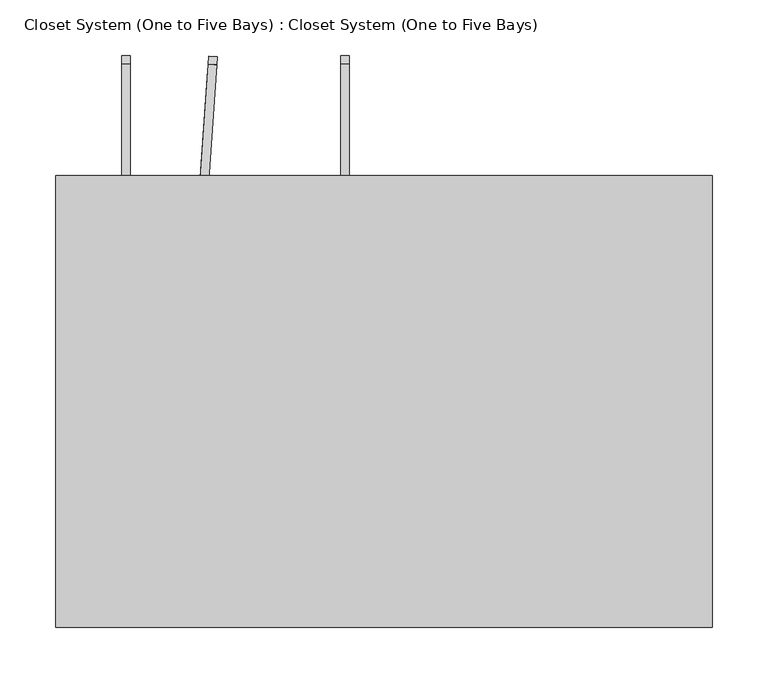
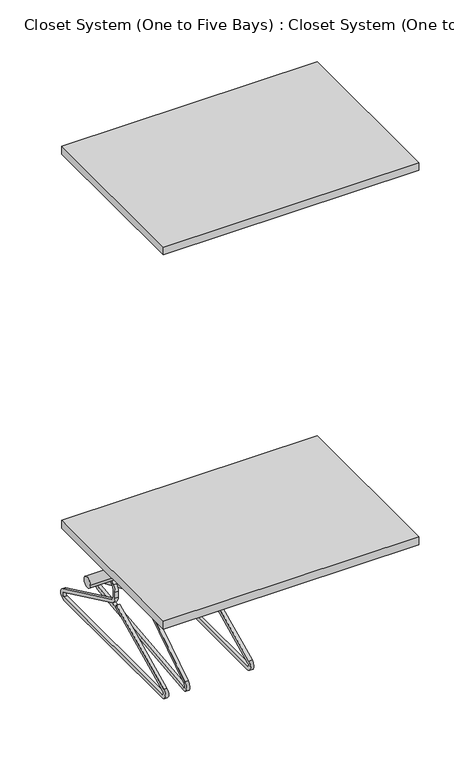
"""IFC4 building model written with IfcOpenShell, lengths in millimetres: furniture geometry, Closet System (One to Five Bays) : Closet System (One to Five Bays)."""

from ifc_helpers import new_model, si_unit, point, frame, frame_2d, origin, place, context, project, spatial, polyline, circle_curve, trimmed, segment, composite_curve, outline, extrude, source, transform, mapped, element, save


def closet_system_one_to_five_bays_closet_system_one_to_five_d383a4f7(model_context):
    return source(origin(), model_context, "Body", "SweptSolid", [
        extrude(outline(composite_curve([segment(polyline([(-1e-07, 7.62), (209.5499999, 7.62)]), True, "CONTINUOUS"), segment(trimmed(circle_curve(frame_2d((209.55, -5.08)), 12.7), [point((209.5499999, 7.62))], [point((215.0168758, -16.5431265))], False, "CARTESIAN"), True, "CONTINUOUS"), segment(polyline([(215.0168758, -16.5431265), (-140.3400453, -186.0162767)]), True, "CONTINUOUS"), segment(trimmed(circle_curve(frame_2d((-145.8069211, -174.5531502)), 12.7), [point((-140.3400453, -186.0162767))], [point((-155.675817, -166.5597221))], False, "CARTESIAN"), True, "CONTINUOUS"), segment(polyline([(-155.675817, -166.5597221), (-19.6406825, 1.3928202)]), True, "CONTINUOUS"), segment(trimmed(circle_curve(frame_2d((-29.5095784, 9.3862484)), 12.7), [point((-19.6406825, 1.3928202))], [point((-18.0464518, 14.8531243))], True, "CARTESIAN"), True, "CONTINUOUS"), segment(polyline([(-18.0464518, 14.8531243), (-24.2041701, 27.7648321)]), True, "CONTINUOUS"), segment(trimmed(circle_curve(frame_2d((-35.6672967, 22.2979563)), 12.7), [point((-24.2041701, 27.7648321))], [point((-31.4273071, 34.2692757))], True, "CARTESIAN"), True, "CONTINUOUS"), segment(polyline([(-31.4273071, 34.2692757), (-50.4112631, 40.9929936)]), True, "CONTINUOUS"), segment(trimmed(circle_curve(frame_2d((-41.931284, 64.9356325)), 25.4), [point((-50.4112631, 40.9929936))], [point((-19.0050311, 75.8693841))], False, "CARTESIAN"), True, "CONTINUOUS"), segment(polyline([(-19.0050311, 75.8693841), (-25.882907, 72.5892586)]), True, "CONTINUOUS"), segment(trimmed(circle_curve(frame_2d((-41.931284, 64.9356325)), 17.78), [point((-25.882907, 72.5892586))], [point((-47.8672694, 48.1757852))], True, "CARTESIAN"), True, "CONTINUOUS"), segment(polyline([(-47.8672694, 48.1757852), (-28.8833134, 41.4520674)]), True, "CONTINUOUS"), segment(trimmed(circle_curve(frame_2d((-35.6672967, 22.2979563)), 20.32), [point((-28.8833134, 41.4520674))], [point((-17.3262943, 31.0449576))], False, "CARTESIAN"), True, "CONTINUOUS"), segment(polyline([(-17.3262943, 31.0449576), (-11.168576, 18.1332497)]), True, "CONTINUOUS"), segment(trimmed(circle_curve(frame_2d((-29.5095784, 9.3862484)), 20.32), [point((-11.168576, 18.1332497))], [point((-13.7193449, -3.4032366))], False, "CARTESIAN"), True, "CONTINUOUS"), segment(polyline([(-13.7193449, -3.4032366), (-149.7544794, -171.355779)]), True, "CONTINUOUS"), segment(trimmed(circle_curve(frame_2d((-145.8069211, -174.5531502)), 5.08), [point((-149.7544794, -171.355779))], [point((-143.6201708, -179.1384008))], True, "CARTESIAN"), True, "CONTINUOUS"), segment(polyline([(-143.6201708, -179.1384008), (211.7367503, -9.6652506)]), True, "CONTINUOUS"), segment(trimmed(circle_curve(frame_2d((209.55, -5.08)), 5.08), [point((211.7367503, -9.6652506))], [point((209.55, 0.0))], True, "CARTESIAN"), True, "CONTINUOUS"), segment(polyline([(209.55, 0.0), (0.0, 0.0), (-1e-07, 7.62)]), True, "CONTINUOUS")], self_intersect=False)), frame((149.1604673, 294.6631686, 748.8387015), z_axis=(-0.9975640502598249, 0.0697564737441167, 0.0), x_axis=(-0.06296277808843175, -0.900409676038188, -0.4304626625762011)), (0.0, 0.0, 1.0), 7.62),
        extrude(outline(composite_curve([segment(polyline([(294.9048367, 748.8387015), (105.7632497, 658.6352506)]), True, "CONTINUOUS"), segment(trimmed(circle_curve(frame_2d((107.95, 654.05)), 5.08), [point((105.7632497, 658.6352506))], [point((107.95, 648.97))], True, "CARTESIAN"), True, "CONTINUOUS"), segment(polyline([(107.95, 648.97), (501.65, 648.97)]), True, "CONTINUOUS"), segment(trimmed(circle_curve(frame_2d((501.65, 654.05)), 5.08), [point((501.65, 648.97))], [point((503.8367503, 658.6352506))], True, "CARTESIAN"), True, "CONTINUOUS"), segment(polyline([(503.8367503, 658.6352506), (308.7529987, 751.6725773)]), True, "CONTINUOUS"), segment(trimmed(circle_curve(frame_2d((317.5, 770.0135797)), 20.32), [point((308.7529987, 751.6725773))], [point((297.18, 770.0135797))], False, "CARTESIAN"), True, "CONTINUOUS"), segment(polyline([(297.18, 770.0135797), (297.18, 784.3184633)]), True, "CONTINUOUS"), segment(trimmed(circle_curve(frame_2d((317.5, 784.3184633)), 20.32), [point((297.18, 784.3184633))], [point((303.1315902, 798.6868731))], False, "CARTESIAN"), True, "CONTINUOUS"), segment(polyline([(303.1315902, 798.6868731), (317.3723586, 812.9276414)]), True, "CONTINUOUS"), segment(trimmed(circle_curve(frame_2d((304.8, 825.5)), 17.78), [point((317.3723586, 812.9276414))], [point((287.02, 825.5))], True, "CARTESIAN"), True, "CONTINUOUS"), segment(polyline([(287.02, 825.5), (279.4, 825.5)]), True, "CONTINUOUS"), segment(trimmed(circle_curve(frame_2d((304.8, 825.5)), 25.4), [point((279.4, 825.5))], [point((322.7605122, 807.5394878))], False, "CARTESIAN"), True, "CONTINUOUS"), segment(polyline([(322.7605122, 807.5394878), (308.5197439, 793.2987194)]), True, "CONTINUOUS"), segment(trimmed(circle_curve(frame_2d((317.5, 784.3184633)), 12.7), [point((308.5197439, 793.2987194))], [point((304.8, 784.3184633))], True, "CARTESIAN"), True, "CONTINUOUS"), segment(polyline([(304.8, 784.3184633), (304.8, 770.0135797)]), True, "CONTINUOUS"), segment(trimmed(circle_curve(frame_2d((317.5, 770.0135797)), 12.7), [point((304.8, 770.0135797))], [point((312.0331242, 758.5504532))], True, "CARTESIAN"), True, "CONTINUOUS"), segment(polyline([(312.0331242, 758.5504532), (507.1168758, 665.5131265)]), True, "CONTINUOUS"), segment(trimmed(circle_curve(frame_2d((501.65, 654.05)), 12.7), [point((507.1168758, 665.5131265))], [point((501.65, 641.35))], False, "CARTESIAN"), True, "CONTINUOUS"), segment(polyline([(501.65, 641.35), (107.95, 641.35)]), True, "CONTINUOUS"), segment(trimmed(circle_curve(frame_2d((107.95, 654.05)), 12.7), [point((107.95, 641.35))], [point((102.4831242, 665.5131265))], False, "CARTESIAN"), True, "CONTINUOUS"), segment(polyline([(102.4831242, 665.5131265), (291.6247112, 755.7165774), (294.9048367, 748.8387015)]), True, "CONTINUOUS")], self_intersect=False)), frame((275.59, 0.0, 0.0), z_axis=(1.0, 0.0, 0.0), x_axis=(0.0, 1.0, 0.0)), (0.0, 0.0, 1.0), 7.62),
        extrude(outline(composite_curve([segment(polyline([(294.9048367, 748.8387015), (105.7632497, 658.6352506)]), True, "CONTINUOUS"), segment(trimmed(circle_curve(frame_2d((107.95, 654.05)), 5.08), [point((105.7632497, 658.6352506))], [point((107.95, 648.97))], True, "CARTESIAN"), True, "CONTINUOUS"), segment(polyline([(107.95, 648.97), (501.65, 648.97)]), True, "CONTINUOUS"), segment(trimmed(circle_curve(frame_2d((501.65, 654.05)), 5.08), [point((501.65, 648.97))], [point((503.8367503, 658.6352506))], True, "CARTESIAN"), True, "CONTINUOUS"), segment(polyline([(503.8367503, 658.6352506), (308.7529987, 751.6725773)]), True, "CONTINUOUS"), segment(trimmed(circle_curve(frame_2d((317.5, 770.0135797)), 20.32), [point((308.7529987, 751.6725773))], [point((297.18, 770.0135797))], False, "CARTESIAN"), True, "CONTINUOUS"), segment(polyline([(297.18, 770.0135797), (297.18, 784.3184633)]), True, "CONTINUOUS"), segment(trimmed(circle_curve(frame_2d((317.5, 784.3184633)), 20.32), [point((297.18, 784.3184633))], [point((303.1315902, 798.6868731))], False, "CARTESIAN"), True, "CONTINUOUS"), segment(polyline([(303.1315902, 798.6868731), (317.3723586, 812.9276414)]), True, "CONTINUOUS"), segment(trimmed(circle_curve(frame_2d((304.8, 825.5)), 17.78), [point((317.3723586, 812.9276414))], [point((287.02, 825.5))], True, "CARTESIAN"), True, "CONTINUOUS"), segment(polyline([(287.02, 825.5), (279.4, 825.5)]), True, "CONTINUOUS"), segment(trimmed(circle_curve(frame_2d((304.8, 825.5)), 25.4), [point((279.4, 825.5))], [point((322.7605122, 807.5394878))], False, "CARTESIAN"), True, "CONTINUOUS"), segment(polyline([(322.7605122, 807.5394878), (308.5197439, 793.2987194)]), True, "CONTINUOUS"), segment(trimmed(circle_curve(frame_2d((317.5, 784.3184633)), 12.7), [point((308.5197439, 793.2987194))], [point((304.8, 784.3184633))], True, "CARTESIAN"), True, "CONTINUOUS"), segment(polyline([(304.8, 784.3184633), (304.8, 770.0135797)]), True, "CONTINUOUS"), segment(trimmed(circle_curve(frame_2d((317.5, 770.0135797)), 12.7), [point((304.8, 770.0135797))], [point((312.0331242, 758.5504532))], True, "CARTESIAN"), True, "CONTINUOUS"), segment(polyline([(312.0331242, 758.5504532), (507.1168758, 665.5131265)]), True, "CONTINUOUS"), segment(trimmed(circle_curve(frame_2d((501.65, 654.05)), 12.7), [point((507.1168758, 665.5131265))], [point((501.65, 641.35))], False, "CARTESIAN"), True, "CONTINUOUS"), segment(polyline([(501.65, 641.35), (107.95, 641.35)]), True, "CONTINUOUS"), segment(trimmed(circle_curve(frame_2d((107.95, 654.05)), 12.7), [point((107.95, 641.35))], [point((102.4831242, 665.5131265))], False, "CARTESIAN"), True, "CONTINUOUS"), segment(polyline([(102.4831242, 665.5131265), (291.6247112, 755.7165774), (294.9048367, 748.8387015)]), True, "CONTINUOUS")], self_intersect=False)), frame((78.74, 0.0, 0.0), z_axis=(1.0, 0.0, 0.0), x_axis=(0.0, 1.0, 0.0)), (0.0, 0.0, 1.0), 7.62),
        extrude(outline(composite_curve([segment(trimmed(circle_curve(frame_2d((304.8, 825.5)), 12.7), [point((317.5, 825.5))], [point((292.1, 825.5))], False, "CARTESIAN"), True, "CONTINUOUS"), segment(trimmed(circle_curve(frame_2d((304.8, 825.5)), 12.7), [point((292.1, 825.5))], [point((317.5, 825.5))], False, "CARTESIAN"), True, "CONTINUOUS")], self_intersect=False)), frame((19.05, 0.0, 0.0), z_axis=(1.0, 0.0, 0.0), x_axis=(0.0, 1.0, 0.0)), (0.0, 0.0, 1.0), 590.55),
        extrude(outline(polyline([(609.6, 406.4), (609.6, 0.0), (19.05, 0.0), (19.05, 406.4), (609.6, 406.4)])), frame((0.0, 0.0, 895.35), z_axis=(0.0, 0.0, 1.0), x_axis=(1.0, 0.0, 0.0)), (0.0, 0.0, 1.0), 19.05),
        extrude(outline(polyline([(609.6, 406.4), (609.6, 0.0), (19.05, 0.0), (19.05, 406.4), (609.6, 406.4)])), frame((0.0, 0.0, 1809.75), z_axis=(0.0, 0.0, 1.0), x_axis=(1.0, 0.0, 0.0)), (0.0, 0.0, 1.0), 19.05),
    ])


if __name__ == "__main__":
    model = new_model("IFC4")
    model_context = context("Model", 3, world=origin())
    ifc_project = project(units=[si_unit("LENGTHUNIT", "METRE", prefix="MILLI")], contexts=[model_context])
    site = spatial("IfcSite", under=ifc_project)
    building = spatial("IfcBuilding", under=site)
    placement = place(None, origin())
    closet_system_one_to_five_bays_closet_system_one_to_five_shape = closet_system_one_to_five_bays_closet_system_one_to_five_d383a4f7(model_context)
    element("IfcFurniture", 1, ObjectType="Closet System (One to Five Bays) : Closet System (One to Five Bays)", at=placement, inside=building, context=model_context, shape_type="MappedRepresentation", body=[
        mapped(closet_system_one_to_five_bays_closet_system_one_to_five_shape, transform((0.0, 0.0, 0.0), x_axis=(1.0, 0.0, 0.0), y_axis=(0.0, 1.0, 0.0), z_axis=(0.0, 0.0, 1.0))),
    ])
    save(model, "model.ifc")
